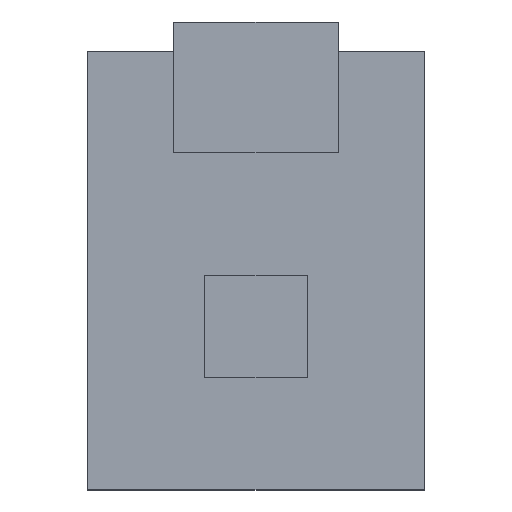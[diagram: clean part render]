
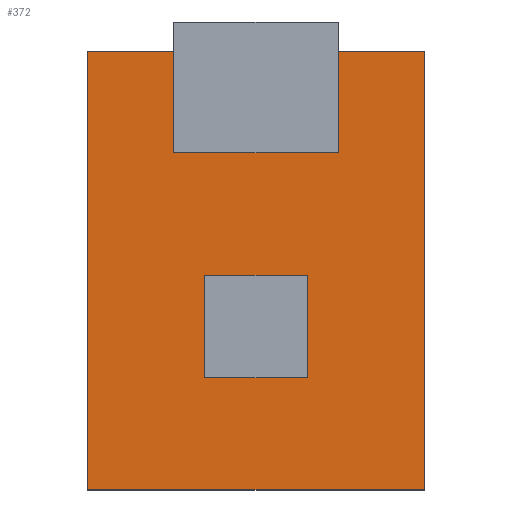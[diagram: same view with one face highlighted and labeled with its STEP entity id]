
A CAD part, top view. The second image highlights one B-rep face of the part: STEP entity #372.
In plain terms, the highlighted planar face has unit normal (0, 0, 1).
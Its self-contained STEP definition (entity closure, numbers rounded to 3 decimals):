
#58 = VERTEX_POINT('',#59);
#59 = CARTESIAN_POINT('',(-9.,-11.75,6.));
#66 = PLANE('',#67);
#67 = AXIS2_PLACEMENT_3D('',#68,#69,#70);
#68 = CARTESIAN_POINT('',(-9.,-11.75,5.));
#69 = DIRECTION('',(1.,0.,0.));
#70 = DIRECTION('',(0.,0.,1.));
#78 = PLANE('',#79);
#79 = AXIS2_PLACEMENT_3D('',#80,#81,#82);
#80 = CARTESIAN_POINT('',(-9.,-11.75,5.));
#81 = DIRECTION('',(0.,1.,0.));
#82 = DIRECTION('',(0.,0.,1.));
#119 = VERTEX_POINT('',#120);
#120 = CARTESIAN_POINT('',(-9.,11.75,6.));
#134 = PLANE('',#135);
#135 = AXIS2_PLACEMENT_3D('',#136,#137,#138);
#136 = CARTESIAN_POINT('',(-9.,11.75,5.));
#137 = DIRECTION('',(0.,1.,0.));
#138 = DIRECTION('',(0.,0.,1.));
#146 = EDGE_CURVE('',#58,#119,#147,.T.);
#147 = SURFACE_CURVE('',#148,(#152,#159),.PCURVE_S1.);
#148 = LINE('',#149,#150);
#149 = CARTESIAN_POINT('',(-9.,-11.75,6.));
#150 = VECTOR('',#151,1.);
#151 = DIRECTION('',(0.,1.,0.));
#152 = PCURVE('',#66,#153);
#153 = DEFINITIONAL_REPRESENTATION('',(#154),#158);
#154 = LINE('',#155,#156);
#155 = CARTESIAN_POINT('',(1.,0.));
#156 = VECTOR('',#157,1.);
#157 = DIRECTION('',(0.,-1.));
#158 = ( GEOMETRIC_REPRESENTATION_CONTEXT(2) 
PARAMETRIC_REPRESENTATION_CONTEXT() REPRESENTATION_CONTEXT('2D SPACE',''
  ) );
#159 = PCURVE('',#160,#165);
#160 = PLANE('',#161);
#161 = AXIS2_PLACEMENT_3D('',#162,#163,#164);
#162 = CARTESIAN_POINT('',(-9.,-11.75,6.));
#163 = DIRECTION('',(0.,0.,1.));
#164 = DIRECTION('',(1.,0.,0.));
#165 = DEFINITIONAL_REPRESENTATION('',(#166),#170);
#166 = LINE('',#167,#168);
#167 = CARTESIAN_POINT('',(0.,0.));
#168 = VECTOR('',#169,1.);
#169 = DIRECTION('',(0.,1.));
#170 = ( GEOMETRIC_REPRESENTATION_CONTEXT(2) 
PARAMETRIC_REPRESENTATION_CONTEXT() REPRESENTATION_CONTEXT('2D SPACE',''
  ) );
#178 = VERTEX_POINT('',#179);
#179 = CARTESIAN_POINT('',(9.,-11.75,6.));
#186 = PLANE('',#187);
#187 = AXIS2_PLACEMENT_3D('',#188,#189,#190);
#188 = CARTESIAN_POINT('',(9.,-11.75,5.));
#189 = DIRECTION('',(1.,0.,0.));
#190 = DIRECTION('',(0.,0.,1.));
#229 = VERTEX_POINT('',#230);
#230 = CARTESIAN_POINT('',(9.,11.75,6.));
#251 = EDGE_CURVE('',#178,#229,#252,.T.);
#252 = SURFACE_CURVE('',#253,(#257,#264),.PCURVE_S1.);
#253 = LINE('',#254,#255);
#254 = CARTESIAN_POINT('',(9.,-11.75,6.));
#255 = VECTOR('',#256,1.);
#256 = DIRECTION('',(0.,1.,0.));
#257 = PCURVE('',#186,#258);
#258 = DEFINITIONAL_REPRESENTATION('',(#259),#263);
#259 = LINE('',#260,#261);
#260 = CARTESIAN_POINT('',(1.,0.));
#261 = VECTOR('',#262,1.);
#262 = DIRECTION('',(0.,-1.));
#263 = ( GEOMETRIC_REPRESENTATION_CONTEXT(2) 
PARAMETRIC_REPRESENTATION_CONTEXT() REPRESENTATION_CONTEXT('2D SPACE',''
  ) );
#264 = PCURVE('',#160,#265);
#265 = DEFINITIONAL_REPRESENTATION('',(#266),#270);
#266 = LINE('',#267,#268);
#267 = CARTESIAN_POINT('',(18.,0.));
#268 = VECTOR('',#269,1.);
#269 = DIRECTION('',(0.,1.));
#270 = ( GEOMETRIC_REPRESENTATION_CONTEXT(2) 
PARAMETRIC_REPRESENTATION_CONTEXT() REPRESENTATION_CONTEXT('2D SPACE',''
  ) );
#297 = EDGE_CURVE('',#58,#178,#298,.T.);
#298 = SURFACE_CURVE('',#299,(#303,#310),.PCURVE_S1.);
#299 = LINE('',#300,#301);
#300 = CARTESIAN_POINT('',(-9.,-11.75,6.));
#301 = VECTOR('',#302,1.);
#302 = DIRECTION('',(1.,0.,0.));
#303 = PCURVE('',#78,#304);
#304 = DEFINITIONAL_REPRESENTATION('',(#305),#309);
#305 = LINE('',#306,#307);
#306 = CARTESIAN_POINT('',(1.,0.));
#307 = VECTOR('',#308,1.);
#308 = DIRECTION('',(0.,1.));
#309 = ( GEOMETRIC_REPRESENTATION_CONTEXT(2) 
PARAMETRIC_REPRESENTATION_CONTEXT() REPRESENTATION_CONTEXT('2D SPACE',''
  ) );
#310 = PCURVE('',#160,#311);
#311 = DEFINITIONAL_REPRESENTATION('',(#312),#316);
#312 = LINE('',#313,#314);
#313 = CARTESIAN_POINT('',(0.,0.));
#314 = VECTOR('',#315,1.);
#315 = DIRECTION('',(1.,0.));
#316 = ( GEOMETRIC_REPRESENTATION_CONTEXT(2) 
PARAMETRIC_REPRESENTATION_CONTEXT() REPRESENTATION_CONTEXT('2D SPACE',''
  ) );
#344 = EDGE_CURVE('',#119,#229,#345,.T.);
#345 = SURFACE_CURVE('',#346,(#350,#357),.PCURVE_S1.);
#346 = LINE('',#347,#348);
#347 = CARTESIAN_POINT('',(-9.,11.75,6.));
#348 = VECTOR('',#349,1.);
#349 = DIRECTION('',(1.,0.,0.));
#350 = PCURVE('',#134,#351);
#351 = DEFINITIONAL_REPRESENTATION('',(#352),#356);
#352 = LINE('',#353,#354);
#353 = CARTESIAN_POINT('',(1.,0.));
#354 = VECTOR('',#355,1.);
#355 = DIRECTION('',(0.,1.));
#356 = ( GEOMETRIC_REPRESENTATION_CONTEXT(2) 
PARAMETRIC_REPRESENTATION_CONTEXT() REPRESENTATION_CONTEXT('2D SPACE',''
  ) );
#357 = PCURVE('',#160,#358);
#358 = DEFINITIONAL_REPRESENTATION('',(#359),#363);
#359 = LINE('',#360,#361);
#360 = CARTESIAN_POINT('',(0.,23.5));
#361 = VECTOR('',#362,1.);
#362 = DIRECTION('',(1.,0.));
#363 = ( GEOMETRIC_REPRESENTATION_CONTEXT(2) 
PARAMETRIC_REPRESENTATION_CONTEXT() REPRESENTATION_CONTEXT('2D SPACE',''
  ) );
#372 = ADVANCED_FACE('',(#373),#160,.T.);
#373 = FACE_BOUND('',#374,.T.);
#374 = EDGE_LOOP('',(#375,#376,#377,#378));
#375 = ORIENTED_EDGE('',*,*,#146,.F.);
#376 = ORIENTED_EDGE('',*,*,#297,.T.);
#377 = ORIENTED_EDGE('',*,*,#251,.T.);
#378 = ORIENTED_EDGE('',*,*,#344,.F.);
